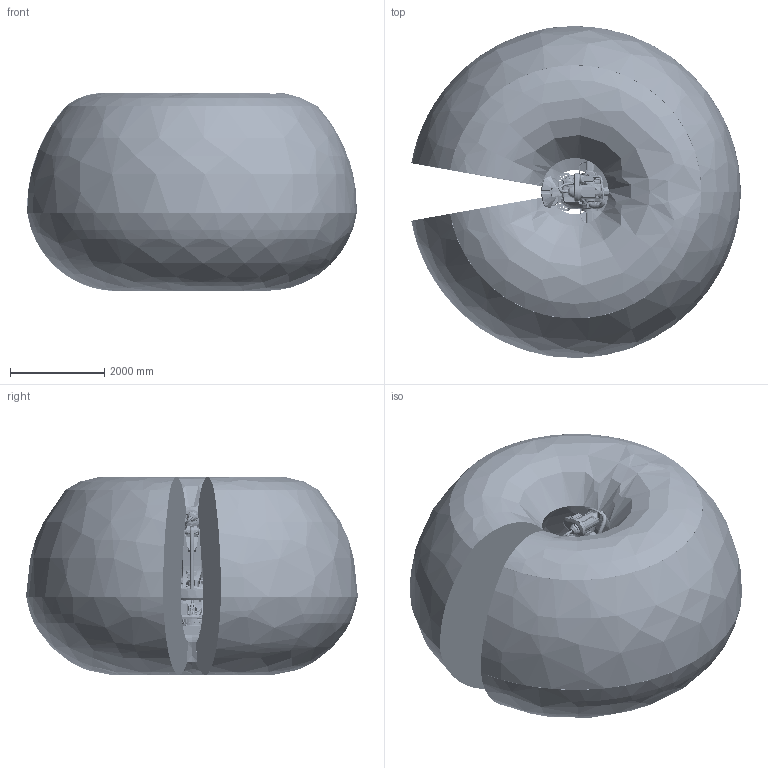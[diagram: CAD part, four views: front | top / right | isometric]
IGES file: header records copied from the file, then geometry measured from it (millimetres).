
Start section: SolidWorks IGES file using analytic representation for surfaces
Global section: file name: C:\Users\SEJAOLS6\OneDrive - ABB\Documents\SAP\7710\7710_Lightweight_models\IRB7710-MH3_310kg-350_OC_01_SW_J\IRB7710-MH3_310kg-350_OC_01_IGES_J\IRB7710-MH3_310kg-350_OC_01_ASM_CAD.igs; native system: SolidWorks 2024; preprocessor: SolidWorks 2024; author: SEJAOLS6; date: 260127.072042; units: millimetre
Bounding box: 6995.68 x 7047.14 x 4198.61 mm (x, y, z)
Surface area: 184750038.4 mm2 (no closed solid volume)
Topology: 0 solids, 0 shells, 9708 faces, 168557 edges, 168397 vertices
Faces by surface type: bspline 5353, revolution 4355
